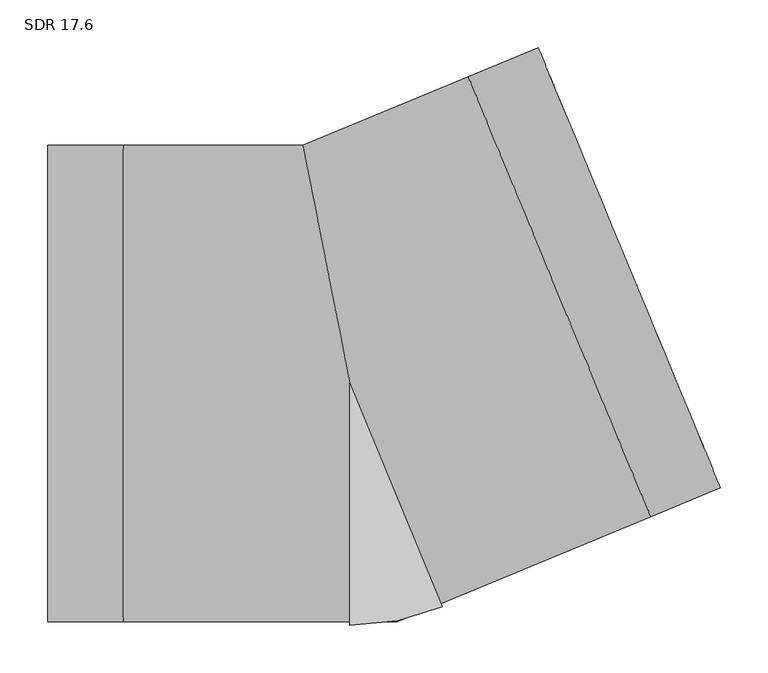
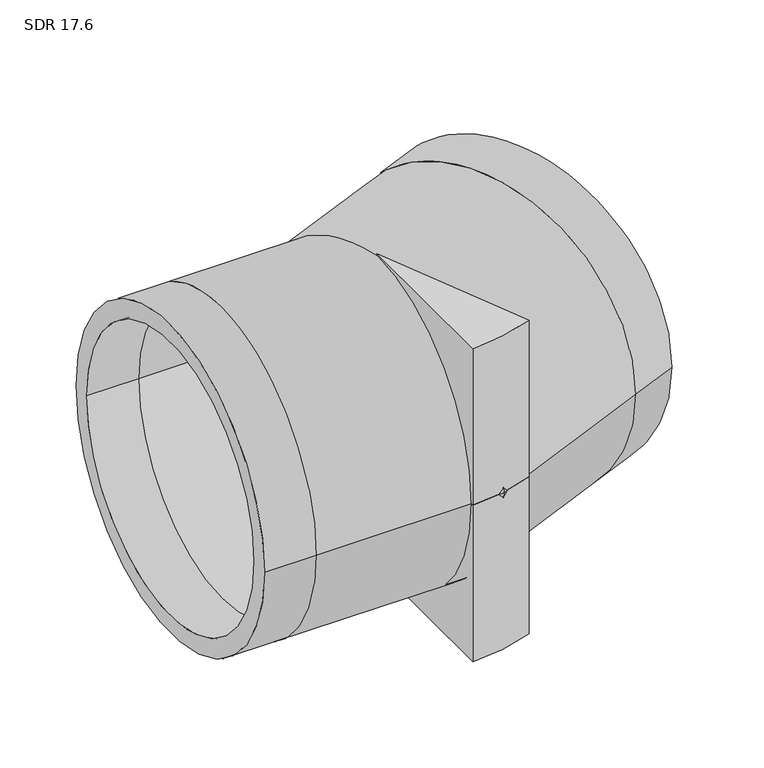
"""IFC4 building model written with IfcOpenShell, lengths in millimetres: pipe fitting geometry, Aquatherm - Elbow Blue BW Segmented : SDR 17.6."""

from ifc_helpers import new_model, si_unit, point, frame, origin, origin_with_axes, origin_2d, place, context, project, spatial, polyline, circle_curve, ellipse_curve, trimmed, segment, composite_curve, outline, extrude, source, transform, mapped, element, save
from ifc_brep_helpers import plane_surface, cylinder_surface, revolved_surface, advanced_brep


def sdr_17_6_e0f00cbc(model_context):
    return source(origin(), model_context, "Body", "SolidModel", [
        extrude(outline(composite_curve([segment(polyline([(0.0, -254.0), (0.0, 0.0), (97.2015918, -234.6654013)]), True, "CONTINUOUS"), segment(trimmed(circle_curve(origin_2d(), 254.0), [point((97.2015918, -234.6654013))], [point((0.0, -254.0))], False, "CARTESIAN"), True, "CONTINUOUS")], self_intersect=False)), frame((0.0, 0.0, -254.0), z_axis=(0.0, 0.0, 1.0), x_axis=(1.0, 0.0, 0.0)), (0.0, 0.0, 1.0), 254.0),
        extrude(outline(composite_curve([segment(trimmed(circle_curve(origin_2d(), 254.0), [point((97.2015918, -234.6654013))], [point((0.0, -254.0))], False, "CARTESIAN"), True, "CONTINUOUS"), segment(polyline([(0.0, -254.0), (0.0, 0.0), (97.2015918, -234.6654013)]), True, "CONTINUOUS")], self_intersect=False)), origin_with_axes(), (0.0, 0.0, 1.0), 254.0),
        advanced_brep(
        [(-317.5, -250.19, 0.0), (-317.5, 250.19, 0.0), (-317.5, -221.761842, 0.0), (-317.5, 221.761842, 0.0), (389.0753195, -109.6434305, 0.0), (197.5881836, 352.64741, 0.0), (378.1963344, -83.3792371, 0.0), (208.4671687, 326.3832167, 0.0), (-238.125, -250.19, 0.0), (-238.125, 250.19, 0.0), (-238.125, -221.761842, 0.0), (-238.125, 221.761842, 0.0), (49.7658852, -250.19, 0.0), (-49.7658852, 250.19, 0.0), (44.111173, -221.761842, 0.0), (-44.111173, 221.761842, 0.0), (315.7423816, -140.0189279, 0.0), (124.2552457, 322.2719126, 0.0), (304.8633965, -113.7547346, 0.0), (135.1342308, 296.0077192, 0.0)],
        [
            (0, 1, circle_curve(frame((-317.5, 0.0, 0.0), z_axis=(-1.0, 0.0, 0.0), x_axis=(0.0, 1.0, 0.0)), 250.19)),
            (1, 0, circle_curve(frame((-317.5, 0.0, 0.0), z_axis=(-1.0, 0.0, 0.0), x_axis=(0.0, 1.0, 0.0)), 250.19)),
            (2, 3, circle_curve(frame((-317.5, 0.0, 0.0), z_axis=(1.0, 0.0, 0.0), x_axis=(0.0, 1.0, 0.0)), 221.761842)),
            (3, 2, circle_curve(frame((-317.5, 0.0, 0.0), z_axis=(1.0, 0.0, 0.0), x_axis=(0.0, 1.0, 0.0)), 221.761842)),
            (4, 5, circle_curve(frame((293.3317516, 121.5019898, 0.0), z_axis=(0.923879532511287, 0.3826834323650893, 0.0), x_axis=(-0.3826834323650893, 0.923879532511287, 0.0)), 250.19)),
            (5, 4, circle_curve(frame((293.3317516, 121.5019898, 0.0), z_axis=(0.923879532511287, 0.3826834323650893, 0.0), x_axis=(-0.3826834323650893, 0.923879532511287, 0.0)), 250.19)),
            (6, 7, circle_curve(frame((293.3317516, 121.5019898, 0.0), z_axis=(-0.923879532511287, -0.3826834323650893, 0.0), x_axis=(-0.3826834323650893, 0.923879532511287, 0.0)), 221.761842)),
            (7, 6, circle_curve(frame((293.3317516, 121.5019898, 0.0), z_axis=(-0.923879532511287, -0.3826834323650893, 0.0), x_axis=(-0.3826834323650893, 0.923879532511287, 0.0)), 221.761842)),
            (0, 8),
            (8, 9, circle_curve(frame((-238.125, 0.0, 0.0), z_axis=(-1.0, 0.0, 0.0), x_axis=(0.0, 1.0, 0.0)), 250.19)),
            (9, 1),
            (9, 8, circle_curve(frame((-238.125, 0.0, 0.0), z_axis=(-1.0, 0.0, 0.0), x_axis=(0.0, 1.0, 0.0)), 250.19)),
            (2, 10),
            (10, 11, circle_curve(frame((-238.125, 0.0, 0.0), z_axis=(1.0, 0.0, 0.0), x_axis=(0.0, 1.0, 0.0)), 221.761842)),
            (11, 3),
            (11, 10, circle_curve(frame((-238.125, 0.0, 0.0), z_axis=(1.0, 0.0, 0.0), x_axis=(0.0, 1.0, 0.0)), 221.761842)),
            (8, 12),
            (12, 13, ellipse_curve(frame((0.0, 0.0, 0.0), z_axis=(-0.9807852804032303, -0.19509032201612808, 0.0), x_axis=(-0.19509032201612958, 0.9807852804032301, 0.0)), 255.0915119, 250.19)),
            (13, 9),
            (13, 12, ellipse_curve(frame((0.0, 0.0, 0.0), z_axis=(-0.9807852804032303, -0.19509032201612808, 0.0), x_axis=(-0.19509032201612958, 0.9807852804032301, 0.0)), 255.0915119, 250.19)),
            (10, 14),
            (14, 15, ellipse_curve(frame((0.0, 0.0, 0.0), z_axis=(0.9807852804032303, 0.19509032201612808, 0.0), x_axis=(0.19509032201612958, -0.9807852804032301, 0.0)), 226.1064133, 221.761842)),
            (15, 11),
            (15, 14, ellipse_curve(frame((0.0, 0.0, 0.0), z_axis=(0.9807852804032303, 0.19509032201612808, 0.0), x_axis=(0.19509032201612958, -0.9807852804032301, 0.0)), 226.1064133, 221.761842)),
            (12, 16),
            (16, 17, circle_curve(frame((219.9988137, 91.1264923, 0.0), z_axis=(-0.9238795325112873, -0.38268343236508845, 0.0), x_axis=(-0.38268343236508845, 0.9238795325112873, 0.0)), 250.19)),
            (17, 13),
            (17, 16, circle_curve(frame((219.9988137, 91.1264923, 0.0), z_axis=(-0.9238795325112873, -0.38268343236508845, 0.0), x_axis=(-0.38268343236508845, 0.9238795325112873, 0.0)), 250.19)),
            (14, 18),
            (18, 19, circle_curve(frame((219.9988137, 91.1264923, 0.0), z_axis=(0.9238795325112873, 0.38268343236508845, 0.0), x_axis=(-0.38268343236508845, 0.9238795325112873, 0.0)), 221.761842)),
            (19, 15),
            (19, 18, circle_curve(frame((219.9988137, 91.1264923, 0.0), z_axis=(0.9238795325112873, 0.38268343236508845, 0.0), x_axis=(-0.38268343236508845, 0.9238795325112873, 0.0)), 221.761842)),
            (16, 4),
            (5, 17),
            (18, 6),
            (7, 19),
        ],
        [
            plane_surface(frame((-317.5, 0.0, 0.0), z_axis=(-1.0, 0.0, 0.0), x_axis=(0.0, 0.0, 1.0))),
            plane_surface(frame((293.3317516, 121.5019898, 0.0), z_axis=(0.923879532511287, 0.3826834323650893, 0.0), x_axis=(0.0, 0.0, 1.0))),
            cylinder_surface(frame((-317.5, 0.0, 0.0), z_axis=(-1.0, 0.0, 0.0), x_axis=(0.0, 1.0, 0.0)), 250.19),
            revolved_surface(polyline([(-238.125, 221.761842, 0.0), (-317.5, 221.761842, 0.0)]), (-317.5, 0.0, 0.0), (1.0, 0.0, 0.0)),
            cylinder_surface(frame((-238.125, 0.0, 0.0), z_axis=(-1.0, 0.0, 0.0), x_axis=(0.0, 1.0, 0.0)), 250.19),
            revolved_surface(polyline([(44.11117300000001, 221.761842, 0.0), (-238.125, 221.761842, 0.0)]), (-238.125, 0.0, 0.0), (1.0, 0.0, 0.0)),
            cylinder_surface(frame((0.0, 0.0, 0.0), z_axis=(-0.9238795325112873, -0.38268343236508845, 0.0), x_axis=(-0.38268343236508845, 0.9238795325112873, 0.0)), 250.19),
            revolved_surface(polyline([(135.13423082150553, 296.00771925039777, 0.0), (-125.61799273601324, 188.00061183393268, 0.0)]), (0.0, 0.0, 0.0), (0.9238795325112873, 0.38268343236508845, 0.0)),
            cylinder_surface(frame((219.9988137, 91.1264923, 0.0), z_axis=(-0.923879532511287, -0.3826834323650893, 0.0), x_axis=(-0.3826834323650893, 0.923879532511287, 0.0)), 250.19),
            revolved_surface(polyline([(208.46716875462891, 326.38321667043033, 0.0), (135.13423078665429, 296.0077191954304, 0.0)]), (219.9988137, 91.1264923, 0.0), (0.923879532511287, 0.3826834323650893, 0.0)),
        ],
        [
            (0, [[1, 2], [3, 4]]),
            (1, [[5, 6], [7, 8]]),
            (2, [[-1, 9, 10, 11]]),
            (2, [[-2, -11, 12, -9]]),
            (3, [[-3, 13, 14, 15]]),
            (3, [[-4, -15, 16, -13]]),
            (4, [[-10, 17, 18, 19]]),
            (4, [[-12, -19, 20, -17]]),
            (5, [[-14, 21, 22, 23]]),
            (5, [[-16, -23, 24, -21]]),
            (6, [[-18, 25, 26, 27]]),
            (6, [[-20, -27, 28, -25]]),
            (7, [[-22, 29, 30, 31]]),
            (7, [[-24, -31, 32, -29]]),
            (8, [[-26, 33, -6, 34]]),
            (8, [[-28, -34, -5, -33]]),
            (9, [[-30, 35, -8, 36]]),
            (9, [[-32, -36, -7, -35]]),
        ],
    ),
    ])


if __name__ == "__main__":
    model = new_model("IFC4")
    model_context = context("Model", 3, world=origin())
    ifc_project = project(units=[si_unit("LENGTHUNIT", "METRE", prefix="MILLI")], contexts=[model_context])
    site = spatial("IfcSite", under=ifc_project)
    building = spatial("IfcBuilding", under=site)
    placement = place(None, origin())
    sdr_17_6_shape = sdr_17_6_e0f00cbc(model_context)
    element("IfcPipeFitting", 1, ObjectType="Aquatherm - Elbow Blue BW Segmented : SDR 17.6", at=placement, inside=building, context=model_context, shape_type="MappedRepresentation", body=[
        mapped(sdr_17_6_shape, transform((0.0, 0.0, 0.0), x_axis=(1.0, 0.0, 0.0), y_axis=(0.0, 1.0, 0.0), z_axis=(0.0, 0.0, 1.0))),
    ])
    save(model, "model.ifc")
